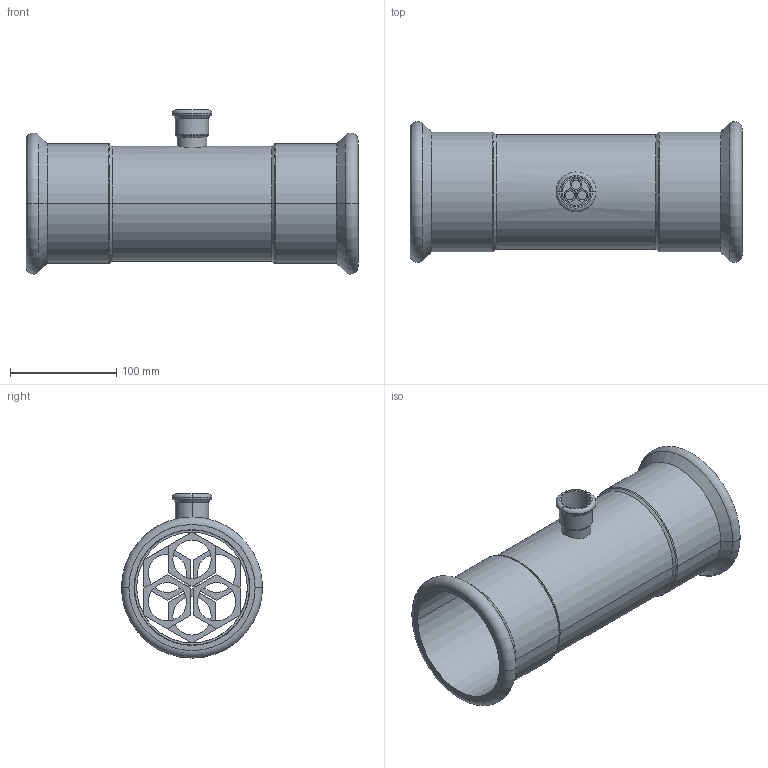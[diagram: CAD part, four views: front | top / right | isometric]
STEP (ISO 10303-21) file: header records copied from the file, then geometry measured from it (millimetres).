
FILE_DESCRIPTION(('OneSpaceDesigner STEP Export'),'2;1');
FILE_NAME('R2715 108x28x108.stp','2010-06-10T 9:39:55',(''),(''),'OneSpace Designer STEP processor for AP214 (Solid Model)','OneSpace Modeling 15.00A 14-Mar-2007 (C) CoCreate Software GmbH','');
FILE_SCHEMA(('AUTOMOTIVE_DESIGN { 1 0 10303 214 1 1 1 1 }'));
Length unit declared in the file: millimetre
Products named in the file (2): R2715_108x28x108
Assembly tree (1 placements, depth 2):
  R2715_108x28x108
    R2715_108x28x108
Bounding box: 312 x 132.58 x 154.29 mm (x, y, z)
Volume: 342993.5 mm3; surface area: 248669.9 mm2
Topology: 1 solids, 1 shells, 170 faces, 423 edges, 272 vertices
Faces by surface type: plane 90, cylinder 54, torus 14, cone 12
Entity records: 5630 total; most frequent: CARTESIAN_POINT 1881, ORIENTED_EDGE 846, DIRECTION 655, EDGE_CURVE 423, VERTEX_POINT 272, VECTOR 263, LINE 263, EDGE_LOOP 207
